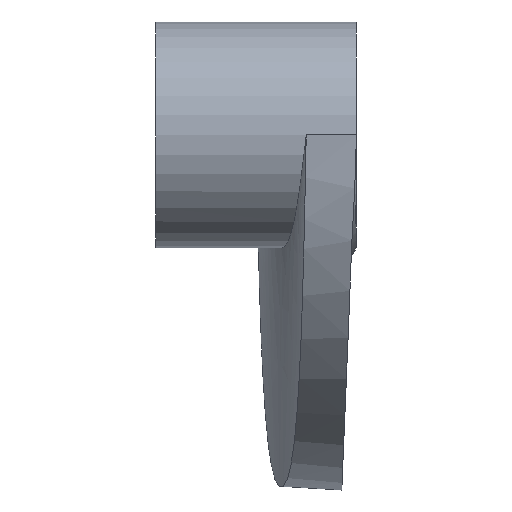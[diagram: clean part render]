
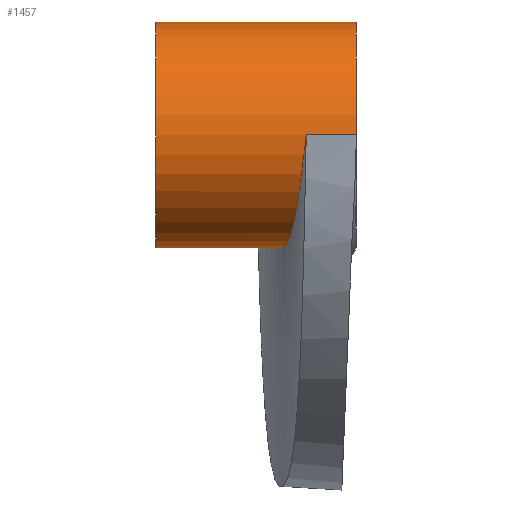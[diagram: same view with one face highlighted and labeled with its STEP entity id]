
A CAD part, left-side view. The second image highlights one B-rep face of the part: STEP entity #1457.
In plain terms, the highlighted cylindrical face has radius 13.5 mm (diameter 27 mm), a partial arc.
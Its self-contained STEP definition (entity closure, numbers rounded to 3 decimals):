
#10 = VERTEX_POINT ( 'NONE', #651 ) ;
#21 = DIRECTION ( 'NONE',  ( 0., 1., 0. ) ) ;
#39 = VERTEX_POINT ( 'NONE', #1143 ) ;
#50 = VECTOR ( 'NONE', #1393, 1000. ) ;
#53 = AXIS2_PLACEMENT_3D ( 'NONE', #1125, #398, #1239 ) ;
#55 = CARTESIAN_POINT ( 'NONE',  ( 0., 24., 13.5 ) ) ;
#72 = ORIENTED_EDGE ( 'NONE', *, *, #776, .T. ) ;
#80 = CARTESIAN_POINT ( 'NONE',  ( -11.705, 6.833, -6.784 ) ) ;
#88 = CARTESIAN_POINT ( 'NONE',  ( -3.478, 8.366, -13.052 ) ) ;
#89 = CYLINDRICAL_SURFACE ( 'NONE', #496, 13.5 ) ;
#164 = CARTESIAN_POINT ( 'NONE',  ( 0., 0., -13.5 ) ) ;
#174 = CIRCLE ( 'NONE', #894, 13.5 ) ;
#176 = VERTEX_POINT ( 'NONE', #1380 ) ;
#190 = LINE ( 'NONE', #164, #1105 ) ;
#193 = CARTESIAN_POINT ( 'NONE',  ( -10.7, 7.057, -8.244 ) ) ;
#194 = VERTEX_POINT ( 'NONE', #436 ) ;
#198 = CARTESIAN_POINT ( 'NONE',  ( -1.745, 8.676, -13.416 ) ) ;
#253 = CARTESIAN_POINT ( 'NONE',  ( -13.5, 24., 0. ) ) ;
#271 = ORIENTED_EDGE ( 'NONE', *, *, #1237, .T. ) ;
#306 = CARTESIAN_POINT ( 'NONE',  ( -9.834, 7.232, -9.259 ) ) ;
#312 = CARTESIAN_POINT ( 'NONE',  ( 0., 9., -13.5 ) ) ;
#398 = DIRECTION ( 'NONE',  ( 0., 1., 0. ) ) ;
#424 = CARTESIAN_POINT ( 'NONE',  ( -8.215, 7.536, -10.75 ) ) ;
#436 = CARTESIAN_POINT ( 'NONE',  ( 0., 0., 13.5 ) ) ;
#496 = AXIS2_PLACEMENT_3D ( 'NONE', #1238, #810, #933 ) ;
#512 = EDGE_CURVE ( 'NONE', #1114, #194, #1311, .T. ) ;
#542 = CARTESIAN_POINT ( 'NONE',  ( -13.153, 6.353, -3.075 ) ) ;
#549 = CARTESIAN_POINT ( 'NONE',  ( -6.723, 7.8, -11.715 ) ) ;
#597 = ORIENTED_EDGE ( 'NONE', *, *, #1153, .F. ) ;
#651 = CARTESIAN_POINT ( 'NONE',  ( -13.5, 0., 0. ) ) ;
#654 = CARTESIAN_POINT ( 'NONE',  ( -12.786, 6.51, -4.355 ) ) ;
#660 = CARTESIAN_POINT ( 'NONE',  ( -5.545, 8.005, -12.316 ) ) ;
#710 = CARTESIAN_POINT ( 'NONE',  ( 0., 0., 13.5 ) ) ;
#714 = CARTESIAN_POINT ( 'NONE',  ( 0., 0., 0. ) ) ;
#719 = CARTESIAN_POINT ( 'NONE',  ( -13.5, 6., 0. ) ) ;
#726 = LINE ( 'NONE', #253, #1323 ) ;
#747 = EDGE_CURVE ( 'NONE', #834, #176, #1426, .T. ) ;
#776 = EDGE_CURVE ( 'NONE', #10, #194, #174, .T. ) ;
#782 = CARTESIAN_POINT ( 'NONE',  ( -12.122, 6.725, -6.007 ) ) ;
#791 = CARTESIAN_POINT ( 'NONE',  ( -4.321, 8.218, -12.797 ) ) ;
#810 = DIRECTION ( 'NONE',  ( 0., -1., 0. ) ) ;
#812 = ORIENTED_EDGE ( 'NONE', *, *, #747, .F. ) ;
#834 = VERTEX_POINT ( 'NONE', #719 ) ;
#840 = DIRECTION ( 'NONE',  ( 0., 0., 1. ) ) ;
#846 = EDGE_CURVE ( 'NONE', #834, #10, #726, .T. ) ;
#894 = AXIS2_PLACEMENT_3D ( 'NONE', #714, #21, #840 ) ;
#909 = CARTESIAN_POINT ( 'NONE',  ( -10.966, 7., -7.886 ) ) ;
#915 = CARTESIAN_POINT ( 'NONE',  ( -3.047, 8.442, -13.159 ) ) ;
#933 = DIRECTION ( 'NONE',  ( 0., 0., -1. ) ) ;
#994 = DIRECTION ( 'NONE',  ( 0., -1., 0. ) ) ;
#1018 = CARTESIAN_POINT ( 'NONE',  ( -13.5, 6.102, -0.895 ) ) ;
#1024 = CARTESIAN_POINT ( 'NONE',  ( -10.133, 7.173, -8.932 ) ) ;
#1032 = CARTESIAN_POINT ( 'NONE',  ( -0.874, 8.838, -13.5 ) ) ;
#1105 = VECTOR ( 'NONE', #994, 1000. ) ;
#1114 = VERTEX_POINT ( 'NONE', #55 ) ;
#1125 = CARTESIAN_POINT ( 'NONE',  ( 0., 24., 0. ) ) ;
#1139 = CARTESIAN_POINT ( 'NONE',  ( -13.5, 6., 0. ) ) ;
#1143 = CARTESIAN_POINT ( 'NONE',  ( 0., 24., -13.5 ) ) ;
#1147 = CARTESIAN_POINT ( 'NONE',  ( -8.896, 7.412, -10.193 ) ) ;
#1153 = EDGE_CURVE ( 'NONE', #39, #1114, #1437, .T. ) ;
#1237 = EDGE_CURVE ( 'NONE', #39, #176, #190, .T. ) ;
#1238 = CARTESIAN_POINT ( 'NONE',  ( 0., 0., 0. ) ) ;
#1239 = DIRECTION ( 'NONE',  ( 0., 0., 1. ) ) ;
#1256 = CARTESIAN_POINT ( 'NONE',  ( -13.412, 6.2, -1.776 ) ) ;
#1262 = CARTESIAN_POINT ( 'NONE',  ( -7.107, 7.733, -11.487 ) ) ;
#1267 = ORIENTED_EDGE ( 'NONE', *, *, #846, .T. ) ;
#1311 = LINE ( 'NONE', #710, #50 ) ;
#1318 = DIRECTION ( 'NONE',  ( 0., -1., 0. ) ) ;
#1323 = VECTOR ( 'NONE', #1318, 1000. ) ;
#1326 = ORIENTED_EDGE ( 'NONE', *, *, #512, .F. ) ;
#1337 = FACE_OUTER_BOUND ( 'NONE', #1372, .T. ) ;
#1363 = CARTESIAN_POINT ( 'NONE',  ( -13.045, 6.405, -3.504 ) ) ;
#1371 = CARTESIAN_POINT ( 'NONE',  ( -5.943, 7.936, -12.129 ) ) ;
#1372 = EDGE_LOOP ( 'NONE', ( #1326, #597, #271, #812, #1267, #72 ) ) ;
#1380 = CARTESIAN_POINT ( 'NONE',  ( 0., 9., -13.5 ) ) ;
#1393 = DIRECTION ( 'NONE',  ( 0., -1., 0. ) ) ;
#1426 = B_SPLINE_CURVE_WITH_KNOTS ( 'NONE', 3,
 ( #1139, #1018, #1256, #542, #1363, #654, #1477, #782, #80, #909, #193, #1024, #306, #1147, #424, #1262, #549, #1371, #660, #1482, #791, #88, #915, #198, #1032, #312 ),
 .UNSPECIFIED., .F., .F.,
 ( 4, 2, 2, 2, 2, 2, 2, 2, 2, 2, 2, 2, 4 ),
 ( 0., 0.003, 0.004, 0.005, 0.008, 0.009, 0.011, 0.013, 0.015, 0.016, 0.017, 0.019, 0.021 ),
 .UNSPECIFIED. ) ;
#1437 = CIRCLE ( 'NONE', #53, 13.5 ) ;
#1457 = ADVANCED_FACE ( 'NONE', ( #1337 ), #89, .T. ) ;
#1477 = CARTESIAN_POINT ( 'NONE',  ( -12.634, 6.564, -4.778 ) ) ;
#1482 = CARTESIAN_POINT ( 'NONE',  ( -4.734, 8.146, -12.65 ) ) ;
